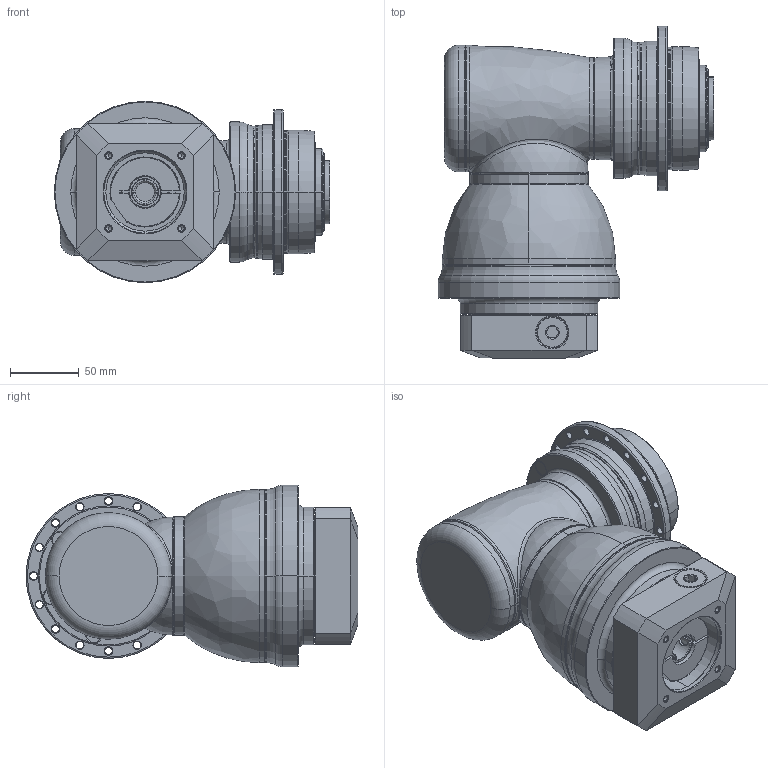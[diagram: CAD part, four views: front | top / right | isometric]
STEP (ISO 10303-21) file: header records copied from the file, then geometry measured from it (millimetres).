
FILE_DESCRIPTION((''),'2;1');
FILE_NAME('APK090_2ST_SBG_19-P0409410201_ASM','2018-10-30T',('d01226'),(''),'PRO/ENGINEER BY PARAMETRIC TECHNOLOGY CORPORATION, 2015240','PRO/ENGINEER BY PARAMETRIC TECHNOLOGY CORPORATION, 2015240','');
FILE_SCHEMA(('CONFIG_CONTROL_DESIGN'));
Length unit declared in the file: millimetre
Products named in the file (13): P0278301003; P0359301103; P1211300001; P1802310011; P1018400002; P1365400001; P1007401001; P1318410001; P0503400008; P0912400201; P0409410201; 21711416017; APK090_2ST_SBG_19-P0409410201_ASM
Assembly tree (12 placements, depth 2):
  APK090_2ST_SBG_19-P0409410201_ASM
    P0278301003
    P0359301103
    P1211300001
    P1802310011
    P1018400002
    P1365400001
    P1007401001
    P1318410001
    P0503400008
    P0912400201
    P0409410201
    21711416017
Bounding box: 200.4 x 241.5 x 132 mm (x, y, z)
Volume: 2570291.9 mm3; surface area: 318548.1 mm2
Topology: 13 solids, 34 shells, 766 faces, 1753 edges, 1053 vertices
Faces by surface type: cylinder 302, cone 187, plane 154, torus 85, bspline 37, sphere 1
Entity records: 28770 total; most frequent: CARTESIAN_POINT 10884, DIRECTION 4124, ORIENTED_EDGE 3348, AXIS2_PLACEMENT_3D 1782, EDGE_CURVE 1717, VERTEX_POINT 1053, CIRCLE 1018, EDGE_LOOP 890
